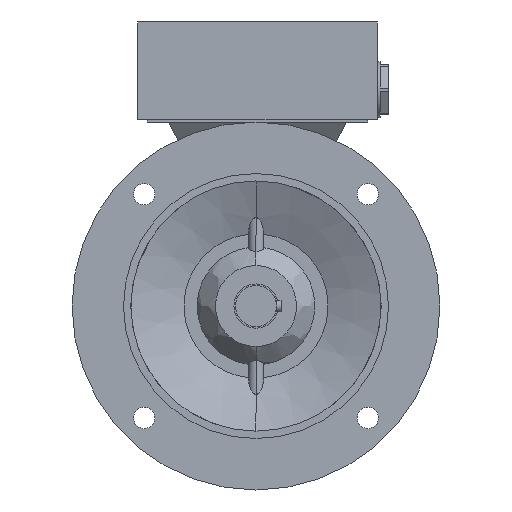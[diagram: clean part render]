
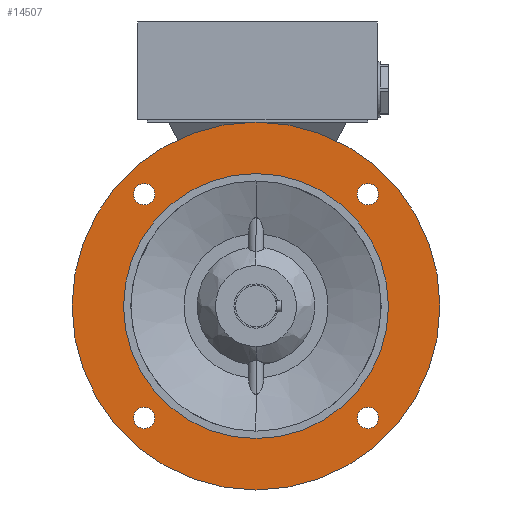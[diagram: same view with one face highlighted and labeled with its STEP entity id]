
A CAD part, left-side view. The second image highlights one B-rep face of the part: STEP entity #14507.
In plain terms, the highlighted planar face has unit normal (-1, 0, 0).
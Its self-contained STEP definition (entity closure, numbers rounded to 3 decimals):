
#897 = AXIS2_PLACEMENT_3D ( 'NONE', #14207, #14208, #14209 ) ;
#898 = AXIS2_PLACEMENT_3D ( 'NONE', #14211, #14212, #14213 ) ;
#900 = AXIS2_PLACEMENT_3D ( 'NONE', #14221, #14222, #14223 ) ;
#902 = AXIS2_PLACEMENT_3D ( 'NONE', #14231, #14232, #14233 ) ;
#1963 = AXIS2_PLACEMENT_3D ( 'NONE', #20902, #20903, #20905 ) ;
#1979 = AXIS2_PLACEMENT_3D ( 'NONE', #21312, #21314, #21316 ) ;
#1980 = AXIS2_PLACEMENT_3D ( 'NONE', #21320, #21322, #21324 ) ;
#1981 = AXIS2_PLACEMENT_3D ( 'NONE', #21328, #21330, #21332 ) ;
#1982 = AXIS2_PLACEMENT_3D ( 'NONE', #21336, #21338, #21340 ) ;
#1983 = AXIS2_PLACEMENT_3D ( 'NONE', #21344, #21346, #21348 ) ;
#2028 = AXIS2_PLACEMENT_3D ( 'NONE', #15576, #15571, #15577 ) ;
#2237 = EDGE_CURVE ( 'NONE', #7336, #7332, #23954, .T. ) ;
#2320 = EDGE_CURVE ( 'NONE', #7148, #9880, #24089, .T. ) ;
#2321 = EDGE_CURVE ( 'NONE', #7147, #7145, #24092, .T. ) ;
#2322 = EDGE_CURVE ( 'NONE', #7152, #7149, #24093, .T. ) ;
#2323 = EDGE_CURVE ( 'NONE', #16269, #7153, #24090, .T. ) ;
#2324 = EDGE_CURVE ( 'NONE', #16273, #16270, #24094, .T. ) ;
#2999 = ORIENTED_EDGE ( 'NONE', *, *, #2237, .T. ) ;
#3000 = ORIENTED_EDGE ( 'NONE', *, *, #6738, .T. ) ;
#3001 = ORIENTED_EDGE ( 'NONE', *, *, #2320, .F. ) ;
#3002 = ORIENTED_EDGE ( 'NONE', *, *, #3240, .F. ) ;
#3003 = ORIENTED_EDGE ( 'NONE', *, *, #2321, .T. ) ;
#3004 = ORIENTED_EDGE ( 'NONE', *, *, #3242, .T. ) ;
#3005 = ORIENTED_EDGE ( 'NONE', *, *, #2322, .T. ) ;
#3006 = ORIENTED_EDGE ( 'NONE', *, *, #3246, .T. ) ;
#3007 = ORIENTED_EDGE ( 'NONE', *, *, #2323, .T. ) ;
#3008 = ORIENTED_EDGE ( 'NONE', *, *, #3250, .T. ) ;
#3009 = ORIENTED_EDGE ( 'NONE', *, *, #2324, .T. ) ;
#3010 = ORIENTED_EDGE ( 'NONE', *, *, #22406, .T. ) ;
#3240 = EDGE_CURVE ( 'NONE', #9880, #7148, #23236, .T. ) ;
#3242 = EDGE_CURVE ( 'NONE', #7145, #7147, #23240, .T. ) ;
#3246 = EDGE_CURVE ( 'NONE', #7149, #7152, #23243, .T. ) ;
#3250 = EDGE_CURVE ( 'NONE', #7153, #16269, #23249, .T. ) ;
#4621 = CARTESIAN_POINT ( 'NONE',  ( -40.5, 0., 125. ) ) ;
#4623 = CARTESIAN_POINT ( 'NONE',  ( -40.5, -76.014, 83.264 ) ) ;
#4624 = CARTESIAN_POINT ( 'NONE',  ( -40.5, -76.014, 68.764 ) ) ;
#4625 = CARTESIAN_POINT ( 'NONE',  ( -40.5, 76.014, 83.264 ) ) ;
#4627 = CARTESIAN_POINT ( 'NONE',  ( -40.5, 76.014, 68.764 ) ) ;
#4628 = CARTESIAN_POINT ( 'NONE',  ( -40.5, 76.014, -68.764 ) ) ;
#4684 = CARTESIAN_POINT ( 'NONE',  ( -40.5, 0., 90. ) ) ;
#4687 = CARTESIAN_POINT ( 'NONE',  ( -40.5, 0., -90. ) ) ;
#6738 = EDGE_CURVE ( 'NONE', #7332, #7336, #10471, .T. ) ;
#7145 = VERTEX_POINT ( 'NONE', #4623 ) ;
#7147 = VERTEX_POINT ( 'NONE', #4624 ) ;
#7148 = VERTEX_POINT ( 'NONE', #4621 ) ;
#7149 = VERTEX_POINT ( 'NONE', #4625 ) ;
#7152 = VERTEX_POINT ( 'NONE', #4627 ) ;
#7153 = VERTEX_POINT ( 'NONE', #4628 ) ;
#7299 = EDGE_LOOP ( 'NONE', ( #3007, #3008 ) ) ;
#7305 = EDGE_LOOP ( 'NONE', ( #3001, #3002 ) ) ;
#7306 = EDGE_LOOP ( 'NONE', ( #3003, #3004 ) ) ;
#7307 = EDGE_LOOP ( 'NONE', ( #2999, #3000 ) ) ;
#7308 = EDGE_LOOP ( 'NONE', ( #3005, #3006 ) ) ;
#7309 = EDGE_LOOP ( 'NONE', ( #3009, #3010 ) ) ;
#7332 = VERTEX_POINT ( 'NONE', #4687 ) ;
#7336 = VERTEX_POINT ( 'NONE', #4684 ) ;
#8682 = CIRCLE ( 'NONE', #24445, 7.25 ) ;
#9880 = VERTEX_POINT ( 'NONE', #19098 ) ;
#10471 = CIRCLE ( 'NONE', #16848, 90. ) ;
#12055 = CARTESIAN_POINT ( 'NONE',  ( -40.5, -76.014, -76.014 ) ) ;
#12056 = DIRECTION ( 'NONE',  ( 1., 0., 0. ) ) ;
#12057 = DIRECTION ( 'NONE',  ( 0., 0., -1. ) ) ;
#14207 = CARTESIAN_POINT ( 'NONE',  ( -40.5, 0., 0. ) ) ;
#14208 = DIRECTION ( 'NONE',  ( 1., 0., 0. ) ) ;
#14209 = DIRECTION ( 'NONE',  ( 0., 0., 1. ) ) ;
#14211 = CARTESIAN_POINT ( 'NONE',  ( -40.5, -76.014, 76.014 ) ) ;
#14212 = DIRECTION ( 'NONE',  ( 1., 0., 0. ) ) ;
#14213 = DIRECTION ( 'NONE',  ( 0., 0., -1. ) ) ;
#14221 = CARTESIAN_POINT ( 'NONE',  ( -40.5, 76.014, 76.014 ) ) ;
#14222 = DIRECTION ( 'NONE',  ( 1., 0., 0. ) ) ;
#14223 = DIRECTION ( 'NONE',  ( 0., 0., -1. ) ) ;
#14231 = CARTESIAN_POINT ( 'NONE',  ( -40.5, 76.014, -76.014 ) ) ;
#14232 = DIRECTION ( 'NONE',  ( 1., 0., 0. ) ) ;
#14233 = DIRECTION ( 'NONE',  ( 0., 0., -1. ) ) ;
#14507 = ADVANCED_FACE ( 'NONE', ( #19834, #19838, #19835, #19837, #19826, #19839 ), #15569, .T. ) ;
#15569 = PLANE ( 'NONE',  #2028 ) ;
#15571 = DIRECTION ( 'NONE',  ( -1., 0., 0. ) ) ;
#15576 = CARTESIAN_POINT ( 'NONE',  ( -40.5, 107.5, 0. ) ) ;
#15577 = DIRECTION ( 'NONE',  ( 0., 0., 1. ) ) ;
#16269 = VERTEX_POINT ( 'NONE', #18389 ) ;
#16270 = VERTEX_POINT ( 'NONE', #18385 ) ;
#16273 = VERTEX_POINT ( 'NONE', #18391 ) ;
#16848 = AXIS2_PLACEMENT_3D ( 'NONE', #21985, #21986, #21987 ) ;
#18385 = CARTESIAN_POINT ( 'NONE',  ( -40.5, -76.014, -68.764 ) ) ;
#18389 = CARTESIAN_POINT ( 'NONE',  ( -40.5, 76.014, -83.264 ) ) ;
#18391 = CARTESIAN_POINT ( 'NONE',  ( -40.5, -76.014, -83.264 ) ) ;
#19098 = CARTESIAN_POINT ( 'NONE',  ( -40.5, 0., -125. ) ) ;
#19826 = FACE_BOUND ( 'NONE', #7299, .T. ) ;
#19834 = FACE_BOUND ( 'NONE', #7307, .T. ) ;
#19835 = FACE_BOUND ( 'NONE', #7306, .T. ) ;
#19837 = FACE_BOUND ( 'NONE', #7308, .T. ) ;
#19838 = FACE_OUTER_BOUND ( 'NONE', #7305, .T. ) ;
#19839 = FACE_BOUND ( 'NONE', #7309, .T. ) ;
#20902 = CARTESIAN_POINT ( 'NONE',  ( -40.5, 0., 0. ) ) ;
#20903 = DIRECTION ( 'NONE',  ( 1., 0., 0. ) ) ;
#20905 = DIRECTION ( 'NONE',  ( 0., 0., 1. ) ) ;
#21312 = CARTESIAN_POINT ( 'NONE',  ( -40.5, 0., 0. ) ) ;
#21314 = DIRECTION ( 'NONE',  ( 1., 0., 0. ) ) ;
#21316 = DIRECTION ( 'NONE',  ( 0., 0., 1. ) ) ;
#21320 = CARTESIAN_POINT ( 'NONE',  ( -40.5, -76.014, 76.014 ) ) ;
#21322 = DIRECTION ( 'NONE',  ( 1., 0., 0. ) ) ;
#21324 = DIRECTION ( 'NONE',  ( 0., 0., -1. ) ) ;
#21328 = CARTESIAN_POINT ( 'NONE',  ( -40.5, 76.014, 76.014 ) ) ;
#21330 = DIRECTION ( 'NONE',  ( 1., 0., 0. ) ) ;
#21332 = DIRECTION ( 'NONE',  ( 0., 0., -1. ) ) ;
#21336 = CARTESIAN_POINT ( 'NONE',  ( -40.5, 76.014, -76.014 ) ) ;
#21338 = DIRECTION ( 'NONE',  ( 1., 0., 0. ) ) ;
#21340 = DIRECTION ( 'NONE',  ( 0., 0., -1. ) ) ;
#21344 = CARTESIAN_POINT ( 'NONE',  ( -40.5, -76.014, -76.014 ) ) ;
#21346 = DIRECTION ( 'NONE',  ( 1., 0., 0. ) ) ;
#21348 = DIRECTION ( 'NONE',  ( 0., 0., -1. ) ) ;
#21985 = CARTESIAN_POINT ( 'NONE',  ( -40.5, 0., 0. ) ) ;
#21986 = DIRECTION ( 'NONE',  ( 1., 0., 0. ) ) ;
#21987 = DIRECTION ( 'NONE',  ( 0., 0., 1. ) ) ;
#22406 = EDGE_CURVE ( 'NONE', #16270, #16273, #8682, .T. ) ;
#23236 = CIRCLE ( 'NONE', #897, 125. ) ;
#23240 = CIRCLE ( 'NONE', #898, 7.25 ) ;
#23243 = CIRCLE ( 'NONE', #900, 7.25 ) ;
#23249 = CIRCLE ( 'NONE', #902, 7.25 ) ;
#23954 = CIRCLE ( 'NONE', #1963, 90. ) ;
#24089 = CIRCLE ( 'NONE', #1979, 125. ) ;
#24090 = CIRCLE ( 'NONE', #1982, 7.25 ) ;
#24092 = CIRCLE ( 'NONE', #1980, 7.25 ) ;
#24093 = CIRCLE ( 'NONE', #1981, 7.25 ) ;
#24094 = CIRCLE ( 'NONE', #1983, 7.25 ) ;
#24445 = AXIS2_PLACEMENT_3D ( 'NONE', #12055, #12056, #12057 ) ;
